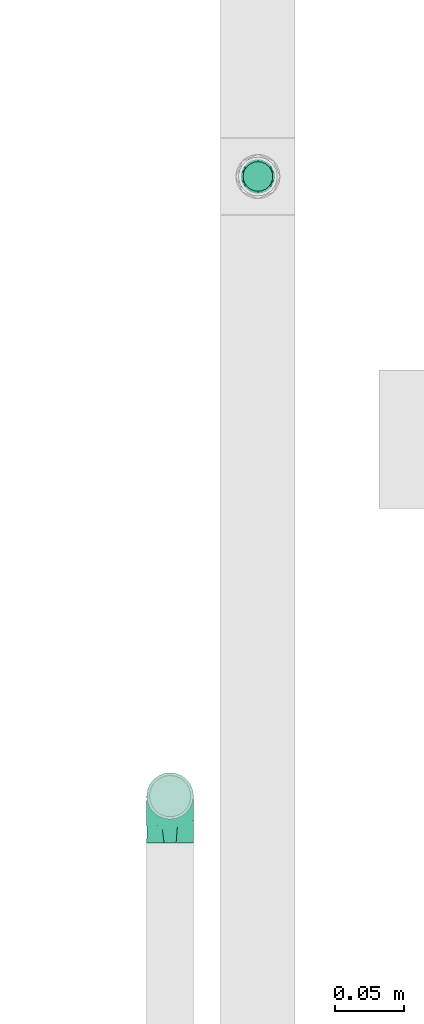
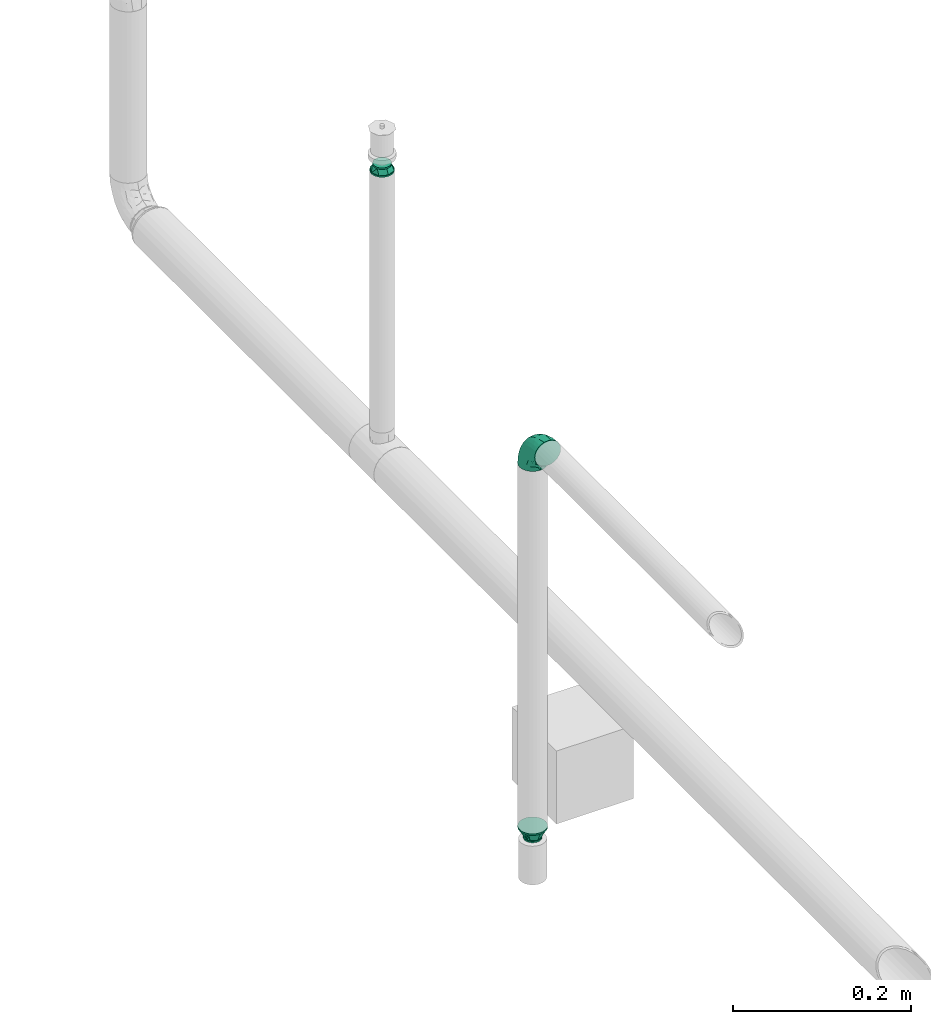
# One storey, part 57 of 95: 3 flow fittings.
"""IFC2X3 building model written with IfcOpenShell, lengths in millimetres."""

import ifcopenshell
import ifcopenshell.guid

model = None  # the IFC model being written
_history = None  # IfcOwnerHistory: only IFC2X3 demands one
_inside = {}  # id of a spatial element -> (the spatial element, [elements in it])
_under = {}  # id of a project, library or spatial element -> (it, [spatial elements below it])
_declared = {}  # id of a project -> (the project, [libraries it declares])
_typed = {}  # id of a type object -> (the type object, [elements of that type])
_made_of = {}  # id of a material, layer set ... -> (it, [elements and type objects made of it])


def new_model(schema):
    """Start an empty IFC model of exactly this schema.

    Asked for "IFC4X3", IfcOpenShell would pick the latest addendum, in which some entities
    have other attributes; the version numbers below select the first issue.
    IFC2X3 requires an IfcOwnerHistory on every rooted entity: one is made here for all.
    """
    global model, _history
    if schema == "IFC4X3":
        model = ifcopenshell.file(schema_version=(4, 3, 0, 0))
    else:
        model = ifcopenshell.file(schema=schema)
    _inside.clear()
    _under.clear()
    _declared.clear()
    _typed.clear()
    _made_of.clear()
    _history = None
    if model.schema == "IFC2X3":
        org = make("IfcOrganization", Name="unknown")
        user = make(
            "IfcPersonAndOrganization",
            ThePerson=make("IfcPerson", FamilyName="unknown"),
            TheOrganization=org,
        )
        app = make(
            "IfcApplication",
            ApplicationDeveloper=org,
            Version="unknown",
            ApplicationFullName="unknown",
            ApplicationIdentifier="unknown",
        )
        _history = make(
            "IfcOwnerHistory",
            OwningUser=user,
            OwningApplication=app,
            ChangeAction="ADDED",
            CreationDate=0,
        )
    return model


def make(cls, **values):
    """One entity of the class cls with the attributes given. An attribute that is None is left unset."""
    return model.create_entity(
        cls, **{name: value for name, value in values.items() if value is not None}
    )


def entity(cls, *values):
    """Any entity or typed value of the class cls, its attributes in the order of the schema. None: left unset."""
    e = model.create_entity(cls)
    for i, value in enumerate(values):
        if value is not None:
            e[i] = value
    return e


def rooted(cls, **values):
    """An entity with a GlobalId (a new one), such as an element, a storey or a relation."""
    return make(cls, GlobalId=ifcopenshell.guid.new(), OwnerHistory=_history, **values)


def si_unit(unit_type, name, prefix=None):
    """IfcSIUnit, for example si_unit("LENGTHUNIT", "METRE", prefix="MILLI")."""
    return make("IfcSIUnit", UnitType=unit_type, Prefix=prefix, Name=name)


def converted_unit(unit_type, name, factor, base, dimensions=None, offset=None):
    """IfcConversionBasedUnit, such as the inch: factor (a typed value) times the base unit."""
    return make(
        "IfcConversionBasedUnit"
        if offset is None
        else "IfcConversionBasedUnitWithOffset",
        ConversionOffset=offset,
        Dimensions=None
        if dimensions is None
        else entity("IfcDimensionalExponents", *dimensions),
        UnitType=unit_type,
        Name=name,
        ConversionFactor=make(
            "IfcMeasureWithUnit", ValueComponent=factor, UnitComponent=base
        ),
    )


def derived_unit(unit_type, elements):
    """IfcDerivedUnit: a product of units, each with its exponent."""
    return make(
        "IfcDerivedUnit",
        Elements=[
            make("IfcDerivedUnitElement", Unit=unit, Exponent=power)
            for unit, power in elements
        ],
        UnitType=unit_type,
    )


def assignment(units):
    """IfcUnitAssignment: the units of a project."""
    return None if units is None else make("IfcUnitAssignment", Units=units)


def point(xyz):
    """IfcCartesianPoint."""
    return None if xyz is None else make("IfcCartesianPoint", Coordinates=xyz)


def direction(xyz):
    """IfcDirection."""
    return None if xyz is None else make("IfcDirection", DirectionRatios=xyz)


def frame(location, z_axis=None, x_axis=None):
    """IfcAxis2Placement3D, a coordinate frame: its origin and axes. An axis left out is left unset."""
    return make(
        "IfcAxis2Placement3D",
        Location=point(location),
        Axis=direction(z_axis),
        RefDirection=direction(x_axis),
    )


def origin_with_axes():
    """The frame at (0, 0, 0) with the z axis (0, 0, 1) and the x axis (1, 0, 0) written out."""
    return frame((0.0, 0.0, 0.0), z_axis=(0.0, 0.0, 1.0), x_axis=(1.0, 0.0, 0.0))


def place(relative_to, where):
    """IfcLocalPlacement: puts the frame where relative to a parent placement (None: the world)."""
    return make(
        "IfcLocalPlacement", PlacementRelTo=relative_to, RelativePlacement=where
    )


def context(
    kind, dimensions, precision=None, world=None, true_north=None, identifier=None
):
    """IfcGeometricRepresentationContext, for example the 3D "Model" context."""
    return make(
        "IfcGeometricRepresentationContext",
        ContextIdentifier=identifier,
        ContextType=kind,
        CoordinateSpaceDimension=dimensions,
        Precision=precision,
        WorldCoordinateSystem=world,
        TrueNorth=true_north,
    )


def subcontext(parent, identifier, kind, view, scale=None):
    """IfcGeometricRepresentationSubContext, for example "Body" below "Model"."""
    return make(
        "IfcGeometricRepresentationSubContext",
        ContextIdentifier=identifier,
        ContextType=kind,
        ParentContext=parent,
        TargetScale=scale,
        TargetView=view,
    )


def project(units=None, contexts=None):
    """IfcProject with its units and contexts."""
    return rooted(
        "IfcProject",
        Name="project",
        RepresentationContexts=contexts,
        UnitsInContext=assignment(units),
    )


def spatial(cls, under=None, at=None, **own):
    """A site, building, storey or space (cls), placed at a placement, below another one or the project."""
    s = rooted(cls, ObjectPlacement=at, **own)
    if under is not None:
        _under.setdefault(under.id(), (under, []))[1].append(s)
    return s


def faces_of(points, faces, orient=None, outer=None):
    """IfcFace entities. A face is a list of loops; a loop is a list of indices into points, from 0.

    orient and outer hold one flag for each loop. By default every Orientation is true, the
    first loop of a face is its IfcFaceOuterBound and the others are IfcFaceBound.
    """
    made = []
    for i, loops in enumerate(faces):
        bounds = []
        for j, loop in enumerate(loops):
            is_outer = j == 0 if outer is None else outer[i][j]
            bounds.append(
                make(
                    "IfcFaceOuterBound" if is_outer else "IfcFaceBound",
                    Bound=make("IfcPolyLoop", Polygon=[points[k] for k in loop]),
                    Orientation=True if orient is None else orient[i][j],
                )
            )
        made.append(make("IfcFace", Bounds=bounds))
    return made


def open_shell(faces, orient=None, outer=None):
    """The faces of one IfcOpenShell. surface_model builds it on its shared points."""
    return ("IfcOpenShell", faces, orient, outer)


def surface_model(cls, points, shells):
    """IfcFaceBasedSurfaceModel or IfcShellBasedSurfaceModel (cls): surfaces that need not close."""
    shared = [point(p) for p in points]
    made = [make(c, CfsFaces=faces_of(shared, fs, o, b)) for c, fs, o, b in shells]
    if cls == "IfcFaceBasedSurfaceModel":
        return make(cls, FbsmFaces=made)
    return make(cls, SbsmBoundary=made)


def shape(context_of_items, identifier, shape_type, items):
    """IfcShapeRepresentation: the items that make up one representation, for example the "Body"."""
    return make(
        "IfcShapeRepresentation",
        ContextOfItems=context_of_items,
        RepresentationIdentifier=identifier,
        RepresentationType=shape_type,
        Items=items,
    )


def source(mapping_origin, context_of_items, identifier, shape_type, items):
    """IfcRepresentationMap: a shape defined once, which mapped items show again and again."""
    return make(
        "IfcRepresentationMap",
        MappingOrigin=mapping_origin,
        MappedRepresentation=shape(context_of_items, identifier, shape_type, items),
    )


def transform(
    local_origin,
    x_axis=None,
    y_axis=None,
    z_axis=None,
    scale=None,
    scale2=None,
    scale3=None,
    uniform=True,
):
    """IfcCartesianTransformationOperator3D, or its non-uniform kind. x_axis, y_axis, z_axis: its Axis1, 2, 3."""
    if uniform:
        return make(
            "IfcCartesianTransformationOperator3D",
            Axis1=direction(x_axis),
            Axis2=direction(y_axis),
            LocalOrigin=point(local_origin),
            Scale=scale,
            Axis3=direction(z_axis),
        )
    return make(
        "IfcCartesianTransformationOperator3DnonUniform",
        Axis1=direction(x_axis),
        Axis2=direction(y_axis),
        LocalOrigin=point(local_origin),
        Scale=scale,
        Axis3=direction(z_axis),
        Scale2=scale2,
        Scale3=scale3,
    )


def mapped(mapping_source, mapping_target):
    """IfcMappedItem: shows the shape of a source again, moved by a transform."""
    return make(
        "IfcMappedItem", MappingSource=mapping_source, MappingTarget=mapping_target
    )


def made_of(thing, what):
    """Note that an element or type object is made of a material, layer set ...; save() writes the relation."""
    if what is not None:
        _made_of.setdefault(what.id(), (what, []))[1].append(thing)
    return thing


def type_object(cls, material=None, **own):
    """A type object (cls), such as IfcWallType, which elements share."""
    return made_of(rooted(cls, **own), material)


def element(
    cls,
    number,
    at=None,
    inside=None,
    cuts=None,
    type_object=None,
    material=None,
    context=None,
    identifier="Body",
    shape_type=None,
    held_by="IfcProductDefinitionShape",
    body=None,
    shapes=None,
    **own,
):
    """One element of the class cls, such as IfcWall. Its Tag is "e" and its number.

    at: its placement. inside: the storey or other place that contains it. cuts: it is an
    opening in that element (IfcRelVoidsElement). A single representation is given by context,
    identifier, shape_type and body (its items); several are given by shapes. held_by: the class
    of the entity that holds the representations. save() writes the other relations.
    """
    e = rooted(cls, Tag="e%d" % number, ObjectPlacement=at, **own)
    if body is not None:
        shapes = [shape(context, identifier, shape_type, body)]
    if shapes is not None:
        e.Representation = make(held_by, Representations=shapes)
    if inside is not None:
        _inside.setdefault(inside.id(), (inside, []))[1].append(e)
    if cuts is not None:
        rooted(
            "IfcRelVoidsElement", RelatingBuildingElement=cuts, RelatedOpeningElement=e
        )
    if type_object is not None:
        _typed.setdefault(type_object.id(), (type_object, []))[1].append(e)
    return made_of(e, material)


def aggregate(whole, parts):
    """IfcRelAggregates: a whole, such as a stair, and the parts it consists of."""
    return rooted("IfcRelAggregates", RelatingObject=whole, RelatedObjects=parts)


def save(model, path):
    """Write the relations noted so far, then the file.

    IfcRelAggregates (storeys below a building ...), IfcRelContainedInSpatialStructure (elements
    in a storey), IfcRelDefinesByType, IfcRelAssociatesMaterial and IfcRelDeclares: one each for
    every whole, place, type object, material and project.
    """
    for whole, parts in _under.values():
        aggregate(whole, parts)
    for where, things in _inside.values():
        rooted(
            "IfcRelContainedInSpatialStructure",
            RelatedElements=things,
            RelatingStructure=where,
        )
    for kind, things in _typed.values():
        rooted("IfcRelDefinesByType", RelatedObjects=things, RelatingType=kind)
    for what, things in _made_of.values():
        rooted("IfcRelAssociatesMaterial", RelatedObjects=things, RelatingMaterial=what)
    for by, libraries in _declared.values():
        rooted("IfcRelDeclares", RelatingContext=by, RelatedDefinitions=libraries)
    model.write(path)


model = new_model("IFC2X3")

# Units and contexts
model_context = context("Model", 3, precision=0.01, world=frame((0.0, 4.29681676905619e-09, 0.0)), true_north=direction((4.01073788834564e-13, 1.0)))
plan_context = context("Plan", 3, precision=0.01, world=frame((0.0, 4.29681676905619e-09, 0.0)), true_north=direction((4.01073788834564e-13, 1.0)))
body_context = subcontext(model_context, "Body", "Model", "MODEL_VIEW")
ifc_project = project(units=[converted_unit("PLANEANGLEUNIT", "DEGREE", entity("IfcPositiveLengthMeasure", 0.0174532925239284), si_unit("PLANEANGLEUNIT", "RADIAN"), dimensions=[0, 0, 0, 0, 0, 0, 0]), si_unit("AREAUNIT", "SQUARE_METRE"), si_unit("LENGTHUNIT", "METRE", prefix="MILLI"), si_unit("MASSUNIT", "GRAM", prefix="KILO"), si_unit("POWERUNIT", "WATT"), si_unit("PRESSUREUNIT", "PASCAL"), si_unit("FORCEUNIT", "NEWTON", prefix="KILO"), si_unit("ELECTRICVOLTAGEUNIT", "VOLT"), si_unit("ELECTRICCURRENTUNIT", "AMPERE"), si_unit("THERMODYNAMICTEMPERATUREUNIT", "DEGREE_CELSIUS"), si_unit("TIMEUNIT", "SECOND"), si_unit("VOLUMEUNIT", "CUBIC_METRE"), derived_unit("LINEARVELOCITYUNIT", [(si_unit("LENGTHUNIT", "METRE"), 1), (si_unit("TIMEUNIT", "SECOND"), -1)]), derived_unit("VOLUMETRICFLOWRATEUNIT", [(si_unit("VOLUMEUNIT", "CUBIC_METRE"), 1), (si_unit("TIMEUNIT", "SECOND"), -1)]), derived_unit("THERMALTRANSMITTANCEUNIT", [(si_unit("POWERUNIT", "WATT"), 1), (si_unit("THERMODYNAMICTEMPERATUREUNIT", "KELVIN"), -1), (si_unit("AREAUNIT", "SQUARE_METRE"), -1)]), derived_unit("SOUNDPRESSUREUNIT", [(si_unit("PRESSUREUNIT", "PASCAL"), 1)])], contexts=[model_context, plan_context])

# Site, building, storey
site_placement = place(None, frame((0.0, -4.29681676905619e-09, 0.0), z_axis=(0.0, 0.0, 1.0), x_axis=(1.0, 0.0, 0.0)))
site = spatial("IfcSite", under=ifc_project, at=site_placement, CompositionType="ELEMENT")
building_placement = place(site_placement, frame((0.0, 4.29681676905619e-09, 0.0), z_axis=(0.0, 0.0, 1.0), x_axis=(1.0, 0.0, 0.0)))
building = spatial("IfcBuilding", under=site, at=building_placement, Name="mc-building", CompositionType="ELEMENT")
storey_placement = place(building_placement, frame((0.0, 0.0, 210900.0), z_axis=(0.0, 0.0, 1.0), x_axis=(1.0, 0.0, 0.0)))
storey = spatial("IfcBuildingStorey", under=building, at=storey_placement, Name="Nivå F", CompositionType="ELEMENT", Elevation=210900.0)

# Flow fittings
pipe_fitting_type_1 = type_object("IfcPipeFittingType", Name="magi_pipe_fe_reducer_centric_short_NOR", PredefinedType="TRANSITION")
shared_shape_1 = source(origin_with_axes(), body_context, "Body", "SurfaceModel", [
    surface_model("IfcShellBasedSurfaceModel", [(-2.0, -7.56604, -7.56604), (-2.0, -10.33541, -2.76936), (-2.0, -5.35, -9.26647), (-2.0, 5.35, -9.26647), (-2.0, 10.33541, -2.76936), (-2.0, 7.56604, -7.56604), (12.4, 11.9501, 11.9501), (12.4, 0.0, 16.9), (12.4, 11.9501, -11.9501), (12.4, 16.9, 0.0), (0.0, -10.7, 0.0), (0.0, -5.35, 9.26647), (0.0, -5.35, -9.26647), (0.0, 10.7, 0.0), (12.4, 15.66253, -2.98753), (12.4, 8.96258, -13.18758), (0.0, 6.6875, -6.94985), (12.4, -15.66253, -2.98753), (12.4, -16.9, 0.0), (12.4, 5.97505, -14.42505), (0.0, 5.35, -9.26647), (12.4, 14.42505, -5.97505), (0.0, 8.025, -4.63324), (0.0, 9.3625, -2.31662), (0.0, -9.3625, -2.31662), (0.0, -8.025, -4.63324), (12.4, -14.42505, -5.97505), (12.4, 13.18758, -8.96258), (12.4, -13.18758, -8.96258), (12.4, -11.9501, -11.9501), (0.0, -6.6875, -6.94985), (12.4, -8.96258, -13.18758), (12.4, -5.97505, -14.42505), (12.4, -15.66253, 2.98753), (12.4, -8.96258, 13.18758), (0.0, -6.6875, 6.94985), (12.4, -11.9501, 11.9501), (12.4, 15.66253, 2.98753), (12.4, -5.97505, 14.42505), (12.4, -14.42505, 5.97505), (0.0, -8.025, 4.63324), (0.0, -9.3625, 2.31662), (0.0, 9.3625, 2.31662), (0.0, 8.025, 4.63324), (12.4, 14.42505, 5.97505), (12.4, -13.18758, 8.96258), (12.4, 13.18758, 8.96258), (0.0, 6.6875, 6.94985), (12.4, 8.96258, 13.18758), (0.0, 5.35, 9.26647), (12.4, 5.97505, 14.42505), (14.4, 4.37404, -16.32415), (14.4, 8.45, -14.63583), (14.4, 11.9501, -11.9501), (14.4, -8.45, -14.63583), (14.4, 16.32415, -4.37404), (14.4, 16.32415, 4.37404), (14.4, 14.63583, -8.45), (14.4, 0.0, -16.9), (14.4, -4.37404, -16.32415), (14.4, -11.9501, -11.9501), (14.4, -16.32415, -4.37404), (14.4, -14.63583, -8.45), (14.4, -16.32415, 4.37404), (14.4, 16.9, 0.0), (14.4, 14.63583, 8.45), (14.4, 11.9501, 11.9501), (14.4, 4.37404, 16.32415), (14.4, 8.45, 14.63583), (14.4, 0.0, 16.9), (14.4, -14.63583, 8.45), (14.4, -16.9, 0.0), (14.4, -8.45, 14.63583), (14.4, -11.9501, 11.9501), (14.4, -4.37404, 16.32415), (12.4, 4.37404, 16.32415), (12.4, -14.63583, 8.45), (12.4, 16.32415, 4.37404), (12.4, 8.45, 14.63583), (12.4, 14.63583, 8.45), (12.4, -8.45, 14.63583), (12.4, -4.37404, 16.32415), (12.4, -16.32415, 4.37404), (12.4, -16.32415, -4.37404), (12.4, -8.45, -14.63583), (12.4, 16.32415, -4.37404), (12.4, 14.63583, -8.45), (12.4, 8.45, -14.63583), (12.4, 4.37404, -16.32415), (12.4, 0.0, -16.9), (12.4, -14.63583, -8.45), (12.4, -4.37404, -16.32415), (-2.0, 2.76936, 10.33541), (-2.0, 0.0, 10.7), (-2.0, 5.35, 9.26647), (-2.0, 7.56604, 7.56604), (-2.0, 9.26647, 5.35), (-2.0, 10.33541, 2.76936), (-2.0, -10.33541, 2.76936), (-2.0, -2.76936, 10.33541), (-2.0, -7.56604, 7.56604), (-2.0, -5.35, 9.26647), (-2.0, -9.26647, 5.35), (-2.0, -10.7, 0.0), (-2.0, 9.26647, -5.35), (-2.0, 2.76936, -10.33541), (-2.0, -9.26647, -5.35), (-2.0, 0.0, -10.7), (-2.0, -2.76936, -10.33541), (-2.0, 10.7, 0.0), (0.0, 0.0, -10.7), (0.0, 2.76936, -10.33541), (0.0, 10.33541, -2.76936), (0.0, 7.56604, -7.56604), (0.0, -10.33541, -2.76936), (0.0, 9.26647, -5.35), (0.0, 0.0, 10.7), (0.0, -2.76936, -10.33541), (0.0, -7.56604, -7.56604), (0.0, -9.26647, -5.35), (0.0, 10.33541, 2.76936), (0.0, 9.26647, 5.35), (0.0, 7.56604, 7.56604), (0.0, 2.76936, 10.33541), (0.0, -7.56604, 7.56604), (0.0, -10.33541, 2.76936), (0.0, -9.26647, 5.35), (0.0, -2.76936, 10.33541), (0.0, 2.675, -9.26647), (0.0, -2.675, -9.26647), (12.4, 2.98753, -15.66253), (0.0, 0.0, -9.26647), (12.4, -2.98753, -15.66253), (0.0, -2.675, 9.26647), (0.0, 2.675, 9.26647), (12.4, -2.98753, 15.66253), (0.0, 0.0, 9.26647), (12.4, 2.98753, 15.66253)], [open_shell([[[0, 1, 2]], [[3, 4, 5]], [[6, 7, 8]], [[8, 9, 6]], [[10, 11, 12]], [[13, 9, 14]], [[15, 16, 8]], [[17, 18, 10]], [[15, 19, 20]], [[21, 22, 23]], [[24, 25, 26]], [[22, 21, 27]], [[28, 26, 25]], [[29, 30, 31]], [[12, 32, 31]], [[10, 18, 33]], [[34, 35, 36]], [[37, 9, 13]], [[34, 38, 11]], [[39, 40, 41]], [[42, 43, 44]], [[40, 39, 45]], [[46, 44, 43]], [[6, 47, 48]], [[49, 50, 48]], [[51, 52, 53]], [[54, 51, 53]], [[53, 55, 56]], [[55, 53, 57]], [[53, 56, 54]], [[58, 54, 59]], [[58, 51, 54]], [[60, 61, 62]], [[61, 60, 54]], [[54, 63, 61]], [[56, 55, 64]], [[56, 65, 66]], [[56, 66, 67]], [[67, 63, 54]], [[67, 66, 68]], [[63, 67, 69]], [[69, 70, 63]], [[71, 61, 63]], [[70, 72, 73]], [[70, 69, 72]], [[72, 69, 74]], [[54, 56, 67]], [[75, 76, 7]], [[77, 75, 78]], [[6, 79, 77]], [[6, 77, 78]], [[76, 75, 77]], [[80, 76, 36]], [[80, 81, 7]], [[7, 76, 80]], [[82, 76, 77]], [[82, 83, 18]], [[82, 77, 84]], [[77, 85, 8]], [[8, 85, 86]], [[8, 87, 88]], [[84, 77, 8]], [[88, 89, 8]], [[83, 29, 90]], [[29, 83, 84]], [[84, 89, 91]], [[83, 82, 84]], [[8, 89, 84]], [[85, 77, 9]], [[83, 61, 18]], [[90, 62, 83]], [[54, 29, 84]], [[90, 29, 60]], [[59, 84, 91]], [[83, 62, 61]], [[61, 71, 18]], [[59, 54, 84]], [[60, 29, 54]], [[60, 62, 90]], [[58, 59, 91]], [[91, 89, 58]], [[88, 51, 89]], [[87, 52, 88]], [[57, 8, 86]], [[87, 8, 53]], [[55, 86, 85]], [[87, 53, 52]], [[52, 51, 88]], [[64, 55, 85]], [[57, 86, 55]], [[57, 53, 8]], [[9, 64, 85]], [[89, 51, 58]], [[77, 56, 9]], [[79, 65, 77]], [[68, 6, 78]], [[79, 6, 66]], [[67, 78, 75]], [[77, 65, 56]], [[56, 64, 9]], [[67, 68, 78]], [[66, 6, 68]], [[66, 65, 79]], [[69, 67, 75]], [[75, 7, 69]], [[81, 74, 7]], [[80, 72, 81]], [[70, 36, 76]], [[80, 36, 73]], [[63, 76, 82]], [[80, 73, 72]], [[72, 74, 81]], [[71, 63, 82]], [[70, 76, 63]], [[70, 73, 36]], [[18, 71, 82]], [[7, 74, 69]], [[92, 1, 93]], [[94, 1, 92]], [[95, 96, 97]], [[95, 97, 94]], [[98, 93, 1]], [[99, 100, 101]], [[99, 93, 100]], [[100, 98, 102]], [[93, 98, 100]], [[98, 1, 103]], [[94, 97, 1]], [[1, 97, 4]], [[5, 4, 104]], [[4, 3, 1]], [[105, 1, 3]], [[1, 0, 106]], [[2, 107, 108]], [[2, 1, 105]], [[105, 107, 2]], [[4, 97, 109]], [[20, 110, 111]], [[112, 20, 113]], [[114, 20, 112]], [[112, 113, 115]], [[116, 114, 112]], [[110, 12, 117]], [[110, 20, 12]], [[118, 114, 119]], [[114, 118, 12]], [[20, 114, 12]], [[112, 13, 120]], [[120, 121, 122]], [[120, 122, 123]], [[116, 112, 123]], [[123, 122, 49]], [[116, 124, 114]], [[125, 124, 126]], [[10, 114, 125]], [[124, 127, 11]], [[125, 114, 124]], [[127, 124, 116]], [[123, 112, 120]], [[1, 114, 103]], [[106, 119, 1]], [[12, 0, 2]], [[106, 0, 118]], [[117, 2, 108]], [[1, 119, 114]], [[114, 10, 103]], [[117, 12, 2]], [[118, 0, 12]], [[118, 119, 106]], [[110, 117, 108]], [[108, 107, 110]], [[105, 111, 107]], [[3, 20, 105]], [[115, 5, 104]], [[3, 5, 113]], [[112, 104, 4]], [[3, 113, 20]], [[20, 111, 105]], [[13, 112, 4]], [[115, 104, 112]], [[115, 113, 5]], [[109, 13, 4]], [[107, 111, 110]], [[97, 120, 109]], [[96, 121, 97]], [[49, 95, 94]], [[96, 95, 122]], [[123, 94, 92]], [[97, 121, 120]], [[120, 13, 109]], [[123, 49, 94]], [[122, 95, 49]], [[122, 121, 96]], [[116, 123, 92]], [[92, 93, 116]], [[99, 127, 93]], [[101, 11, 99]], [[126, 100, 102]], [[101, 100, 124]], [[125, 102, 98]], [[101, 124, 11]], [[11, 127, 99]], [[10, 125, 98]], [[126, 102, 125]], [[126, 124, 100]], [[103, 10, 98]], [[93, 127, 116]], [[18, 7, 36]], [[18, 29, 8]], [[89, 8, 29]], [[18, 8, 7]], [[13, 11, 49]], [[13, 20, 12]], [[13, 12, 11]], [[24, 26, 17]], [[10, 24, 17]], [[16, 15, 20]], [[30, 12, 31]], [[23, 14, 21]], [[19, 128, 20]], [[27, 8, 16]], [[32, 12, 129]], [[30, 28, 25]], [[130, 131, 128]], [[129, 132, 32]], [[16, 22, 27]], [[13, 14, 23]], [[128, 19, 130]], [[130, 89, 131]], [[131, 132, 129]], [[89, 132, 131]], [[28, 30, 29]], [[42, 44, 37]], [[13, 42, 37]], [[35, 34, 11]], [[47, 49, 48]], [[41, 33, 39]], [[38, 133, 11]], [[45, 36, 35]], [[50, 49, 134]], [[47, 46, 43]], [[135, 136, 133]], [[134, 137, 50]], [[35, 40, 45]], [[10, 33, 41]], [[133, 38, 135]], [[135, 7, 136]], [[136, 137, 134]], [[7, 137, 136]], [[46, 47, 6]]])]),
])
flow_fitting_1_placement = place(storey_placement, frame((535898.68266, 447207.85, 3762.948), z_axis=(-1.0, 0.0, 0.0), x_axis=(0.0, 0.0, 1.0)))
element("IfcFlowFitting", 1, at=flow_fitting_1_placement, inside=storey, type_object=pipe_fitting_type_1, Name="magi_pipe_fe_reducer_centric_short_NOR", context=body_context, shape_type="MappedRepresentation", body=[
    mapped(shared_shape_1, transform((0.0, 0.0, 0.0), scale=1.0)),
])
pipe_fitting_type_2 = type_object("IfcPipeFittingType", Name="magi_pipe_fe_elbow_short_001", PredefinedType="BEND")
shared_shape_2 = source(origin_with_axes(), body_context, "Body", "SurfaceModel", [
    surface_model("IfcShellBasedSurfaceModel", [(-33.8, 8.45, -14.63583), (-33.8, 4.37404, -16.32415), (-33.8, 11.9501, -11.9501), (-33.8, -11.9501, -11.9501), (-33.8, -14.63583, -8.45), (-33.8, -8.45, -14.63583), (-33.8, 0.0, -16.9), (-33.8, -4.37404, -16.32415), (-33.8, -4.37404, 16.32415), (-33.8, 0.0, 16.9), (-33.8, -8.45, 14.63583), (-33.8, 16.32415, -4.37404), (-33.8, 14.63583, -8.45), (-33.8, -16.32415, -4.37404), (-33.8, -16.9, 0.0), (-33.8, -16.32415, 4.37404), (-33.8, 11.9501, 11.9501), (-33.8, 14.63583, 8.45), (-33.8, 16.32415, 4.37404), (-33.8, 4.37404, 16.32415), (-33.8, 8.45, 14.63583), (-33.8, -14.63583, 8.45), (-33.8, -11.9501, 11.9501), (-33.8, 16.9, 0.0), (-11.9501, 33.8, -11.9501), (0.0, 33.8, -16.9), (-4.37404, 33.8, -16.32415), (-8.45, 33.8, -14.63583), (-14.63583, 33.8, -8.45), (-16.32415, 33.8, -4.37404), (14.63583, 33.8, -8.45), (8.45, 33.8, 14.63583), (16.32415, 33.8, -4.37404), (8.45, 33.8, -14.63583), (11.9501, 33.8, -11.9501), (4.37404, 33.8, -16.32415), (16.32415, 33.8, 4.37404), (16.9, 33.8, 0.0), (-11.9501, 33.8, 11.9501), (-16.32415, 33.8, 4.37404), (-14.63583, 33.8, 8.45), (-8.45, 33.8, 14.63583), (-4.37404, 33.8, 16.32415), (11.9501, 33.8, 11.9501), (14.63583, 33.8, 8.45), (0.0, 33.8, 16.9), (4.37404, 33.8, 16.32415), (-16.9, 33.8, 0.0), (-24.79389, -13.12945, 9.48721), (-22.19287, -9.75018, 12.59315), (-24.09897, -14.97035, 0.0), (-14.93934, -10.76256, 8.5297), (-22.46095, -14.75051, 5.27077), (14.75051, 22.46094, 5.27077), (11.9251, 13.23888, 4.33236), (13.04069, 14.39795, 0.0), (7.71387, 13.68847, 11.55891), (9.75018, 22.19287, 12.59315), (4.10169, 13.0571, 14.04018), (-24.84007, -6.39063, 15.2048), (-25.81779, -2.23879, 16.61097), (-23.66549, 2.59054, 16.87119), (-26.50418, 14.06512, 11.08152), (-24.21253, 17.66365, 7.72657), (-29.58514, 15.86957, 7.00283), (-6.17382, -7.5455, 0.0), (-13.23888, -11.9251, 4.33236), (-14.39795, -13.04069, 0.0), (-17.81434, 18.87373, 11.97104), (-6.30846, 29.15138, 15.82987), (-2.31622, 25.28002, 16.85849), (-29.23923, 10.23435, 13.77053), (-1.45439, -2.85688, 7.61475), (-0.28326, 0.34872, 10.09509), (-5.74484, -4.04709, 10.4122), (-4.41137, 11.31918, 16.59407), (-8.39727, 3.10034, 15.7812), (-1.72649, 9.1306, 15.53089), (-17.39909, 24.75344, 7.64977), (-26.19233, 20.0512, 0.0), (-28.14518, 17.29657, 4.25857), (-26.05147, 6.6281, 15.96447), (-5.87354, 16.61944, 16.86968), (-12.51807, 12.51807, 16.48937), (-10.06312, 7.38516, 16.81295), (-3.01882, 3.01882, 13.81718), (-13.0571, -4.10169, 14.04018), (-16.82553, -0.15166, 16.38038), (10.76256, 14.93934, 8.5297), (13.12945, 24.79389, 9.48721), (6.39063, 24.84007, 15.2048), (2.23879, 25.81779, 16.61097), (-13.68847, -7.71387, 11.55891), (14.97035, 24.09897, 0.0), (-7.30894, 22.89991, 16.09489), (-10.67958, 26.17414, 14.008), (-12.78295, 18.26924, 15.06066), (-13.88562, 22.45231, 12.93244), (-18.04944, 15.16501, 14.04434), (-23.11658, 20.08178, 4.02986), (-21.84989, 21.84989, 0.0), (-18.55817, 25.48277, 3.93065), (-13.95142, 26.94732, 11.03289), (-18.57098, 7.23906, 16.59756), (-16.58335, 4.14122, 16.89279), (-17.96666, 11.46709, 15.63151), (-9.84453, 17.54304, 16.18938), (0.15166, 16.82553, 16.38038), (-23.27207, 11.47201, 14.23154), (3.84842, 5.86994, 10.70473), (-8.0212, -7.54413, 7.93275), (1.00345, -2.19508, 4.57414), (5.13203, 3.01004, 5.90201), (5.24161, 1.7543, 2.53265), (8.70457, 7.04947, 3.99182), (-20.0512, 26.19233, 0.0), (8.4852, 8.76699, 7.09296), (-4.55488, -6.72064, 4.90681), (2.05031, -2.05031, 0.0), (7.5455, 6.17382, 0.0), (-26.75399, 2.1369, -16.845), (-14.61995, 24.73803, -11.27736), (-28.45274, -13.45335, -9.81895), (-26.00469, 6.63555, -15.96645), (-23.06726, 20.04573, -4.26202), (-13.80647, -4.26506, -14.17873), (-14.67501, -0.21081, -16.07388), (-6.7902, -0.2828, -13.8478), (-24.53586, 11.08096, -14.13417), (-26.72048, 14.00837, -11.05776), (10.0967, 24.44989, -12.75976), (5.83237, 21.40218, -15.03047), (6.66249, 28.54238, -15.38093), (-20.38182, 15.48705, -12.74596), (12.53268, 21.23441, -9.15363), (12.54494, 15.67504, -5.54878), (9.7522, 12.89279, -8.66343), (-15.65186, 19.64213, -13.01327), (-12.03528, 20.66498, -14.67665), (-15.61907, 15.61906, -14.83879), (-25.56551, -15.26206, 0.0), (-24.65452, -15.12934, -5.50955), (13.45335, 28.45274, -9.81895), (15.12934, 24.65452, -5.50955), (-7.35442, -8.31014, -5.65563), (-15.67504, -12.54494, -5.54878), (-24.44989, -10.0967, -12.75976), (0.16522, 0.41303, -9.71728), (-5.70658, -5.33066, -8.89288), (-5.13869, -2.37198, -11.53565), (-21.23441, -12.53268, -9.15363), (0.71146, 7.93863, -14.09382), (0.21081, 14.67501, -16.07388), (3.49291, 14.42772, -14.76381), (-24.89911, -2.13088, -16.591), (-28.54238, -6.66249, -15.38093), (-18.44386, -7.71663, -13.26957), (2.13088, 24.89911, -16.591), (-28.64342, 17.44413, -2.89318), (1.70017, -1.28722, -5.09504), (-16.57067, 26.81947, -7.36596), (-17.69055, 27.4263, -3.76405), (-12.89279, -9.7522, -8.66343), (-5.96611, 5.96611, -15.95814), (-20.53709, 20.09345, -8.28985), (-2.1369, 26.75399, -16.845), (-6.89872, 24.58781, -16.02578), (-10.60739, 26.53157, -13.98044), (-21.40218, -5.83237, -15.03047), (2.93192, 5.89627, -11.55917), (6.89393, 12.61842, -11.82233), (5.58056, 5.95325, -8.79455), (-3.99512, 18.61798, -16.89635), (8.31014, 7.35442, -5.65563), (-9.1383, 9.86148, -16.89041), (-9.99983, 16.02119, -16.39699), (-16.68576, 9.78031, -16.34199), (-27.01915, 16.61158, -7.12979), (15.26206, 25.56551, 0.0), (-18.61798, 3.99512, -16.89635), (-19.37495, 27.82495, 0.0), (-12.61842, -6.89393, -11.82233), (-18.84705, 19.14018, -10.96545)], [open_shell([[[0, 1, 2]], [[3, 4, 5]], [[6, 7, 5]], [[8, 9, 10]], [[1, 6, 2]], [[11, 12, 2]], [[4, 2, 6]], [[2, 13, 10]], [[5, 4, 6]], [[2, 4, 13]], [[14, 15, 13]], [[11, 2, 16]], [[11, 17, 18]], [[11, 16, 17]], [[19, 20, 16]], [[16, 2, 10]], [[19, 16, 10]], [[21, 22, 15]], [[22, 13, 15]], [[22, 10, 13]], [[10, 9, 19]], [[11, 18, 23]], [[24, 25, 26]], [[24, 26, 27]], [[24, 28, 29]], [[25, 24, 30]], [[31, 32, 24]], [[33, 30, 34]], [[33, 35, 25]], [[25, 30, 33]], [[32, 30, 24]], [[32, 36, 37]], [[38, 24, 29]], [[39, 40, 29]], [[40, 38, 29]], [[38, 41, 42]], [[38, 31, 24]], [[31, 38, 42]], [[36, 43, 44]], [[36, 32, 43]], [[31, 45, 46]], [[32, 31, 43]], [[42, 45, 31]], [[39, 29, 47]], [[22, 48, 49]], [[15, 14, 50]], [[51, 48, 52]], [[53, 54, 55]], [[48, 22, 21]], [[15, 52, 21]], [[56, 57, 58]], [[49, 10, 22]], [[49, 59, 10]], [[9, 60, 61]], [[62, 63, 64]], [[65, 66, 67]], [[57, 43, 31]], [[62, 68, 63]], [[42, 69, 70]], [[20, 71, 16]], [[8, 60, 9]], [[72, 73, 74]], [[75, 76, 77]], [[16, 62, 17]], [[40, 39, 78]], [[79, 23, 80]], [[64, 18, 17]], [[9, 61, 19]], [[19, 81, 20]], [[82, 83, 84]], [[74, 85, 86]], [[59, 86, 87]], [[88, 89, 57]], [[90, 31, 46]], [[44, 53, 36]], [[46, 45, 91]], [[54, 53, 88]], [[44, 89, 53]], [[92, 86, 49]], [[89, 44, 43]], [[10, 59, 8]], [[53, 55, 93]], [[93, 36, 53]], [[66, 52, 67]], [[94, 82, 70]], [[95, 96, 94]], [[97, 98, 96]], [[79, 99, 100]], [[41, 38, 95]], [[101, 100, 99]], [[68, 78, 63]], [[42, 41, 69]], [[23, 18, 80]], [[95, 94, 69]], [[78, 101, 99]], [[38, 102, 95]], [[70, 45, 42]], [[97, 95, 102]], [[15, 50, 52]], [[90, 57, 31]], [[57, 90, 58]], [[81, 19, 61]], [[103, 104, 84]], [[105, 81, 103]], [[38, 40, 102]], [[106, 96, 83]], [[94, 106, 82]], [[91, 70, 107]], [[71, 62, 16]], [[62, 108, 98]], [[86, 59, 49]], [[67, 52, 50]], [[60, 59, 87]], [[92, 49, 51]], [[86, 85, 76]], [[91, 90, 46]], [[37, 36, 93]], [[107, 77, 58]], [[107, 58, 90]], [[58, 85, 109]], [[110, 74, 92]], [[72, 74, 110]], [[66, 51, 52]], [[72, 111, 112]], [[113, 114, 112]], [[56, 88, 57]], [[52, 48, 21]], [[49, 48, 51]], [[57, 89, 43]], [[53, 89, 88]], [[103, 81, 61]], [[71, 81, 108]], [[18, 64, 80]], [[63, 78, 99]], [[47, 115, 101]], [[101, 115, 100]], [[40, 78, 102]], [[68, 102, 78]], [[97, 96, 95]], [[105, 98, 108]], [[103, 84, 83]], [[107, 70, 82]], [[76, 84, 87]], [[82, 84, 75]], [[70, 91, 45]], [[90, 91, 107]], [[59, 60, 8]], [[61, 60, 87]], [[73, 85, 74]], [[109, 112, 116]], [[103, 61, 104]], [[105, 103, 83]], [[96, 105, 83]], [[81, 105, 108]], [[96, 98, 105]], [[62, 98, 68]], [[61, 87, 104]], [[87, 84, 104]], [[86, 76, 87]], [[77, 76, 85]], [[58, 77, 85]], [[75, 77, 107]], [[82, 75, 107]], [[76, 75, 84]], [[81, 71, 20]], [[62, 71, 108]], [[95, 69, 41]], [[70, 69, 94]], [[62, 64, 17]], [[80, 63, 99]], [[63, 80, 64]], [[80, 99, 79]], [[66, 65, 117]], [[110, 66, 117]], [[112, 114, 116]], [[118, 117, 65]], [[110, 92, 51]], [[112, 111, 113]], [[119, 55, 54]], [[74, 86, 92]], [[58, 109, 56]], [[116, 56, 109]], [[66, 110, 51]], [[72, 110, 117]], [[111, 72, 117]], [[73, 112, 109]], [[117, 118, 111]], [[113, 111, 118]], [[118, 119, 113]], [[114, 119, 54]], [[119, 114, 113]], [[116, 54, 88]], [[54, 116, 114]], [[116, 88, 56]], [[112, 73, 72]], [[85, 73, 109]], [[78, 39, 101]], [[47, 101, 39]], [[102, 68, 97]], [[97, 68, 98]], [[82, 106, 83]], [[94, 96, 106]], [[1, 120, 6]], [[28, 24, 121]], [[3, 122, 4]], [[0, 123, 1]], [[100, 124, 79]], [[125, 126, 127]], [[128, 2, 129]], [[130, 131, 132]], [[128, 129, 133]], [[134, 135, 136]], [[137, 138, 139]], [[128, 0, 2]], [[67, 140, 141]], [[134, 142, 143]], [[141, 13, 4]], [[144, 65, 145]], [[146, 3, 5]], [[147, 148, 149]], [[145, 141, 150]], [[151, 152, 153]], [[154, 7, 6]], [[5, 155, 146]], [[150, 146, 156]], [[155, 5, 7]], [[143, 135, 134]], [[35, 157, 25]], [[23, 79, 158]], [[148, 159, 144]], [[160, 161, 29]], [[145, 162, 144]], [[163, 152, 151]], [[29, 28, 160]], [[121, 164, 160]], [[33, 34, 130]], [[25, 165, 26]], [[26, 165, 166]], [[142, 34, 30]], [[24, 27, 167]], [[124, 161, 164]], [[157, 35, 132]], [[155, 154, 168]], [[123, 0, 128]], [[169, 170, 171]], [[172, 157, 152]], [[26, 166, 27]], [[132, 35, 33]], [[142, 130, 34]], [[168, 154, 126]], [[136, 135, 173]], [[133, 137, 139]], [[2, 12, 129]], [[170, 131, 130]], [[30, 32, 143]], [[172, 174, 175]], [[176, 123, 128]], [[158, 177, 11]], [[135, 55, 119]], [[167, 27, 166]], [[175, 166, 172]], [[137, 167, 138]], [[122, 141, 4]], [[140, 14, 13]], [[32, 37, 178]], [[170, 130, 134]], [[152, 157, 131]], [[165, 157, 172]], [[153, 170, 151]], [[152, 163, 174]], [[168, 125, 156]], [[122, 146, 150]], [[120, 154, 6]], [[179, 174, 126]], [[179, 126, 154]], [[126, 163, 127]], [[162, 145, 150]], [[140, 13, 141]], [[32, 178, 143]], [[55, 143, 178]], [[177, 129, 12]], [[128, 133, 139]], [[176, 128, 139]], [[120, 123, 179]], [[121, 160, 28]], [[161, 100, 180]], [[166, 175, 138]], [[121, 24, 167]], [[161, 47, 29]], [[79, 124, 158]], [[124, 164, 177]], [[161, 124, 100]], [[136, 171, 170]], [[127, 163, 151]], [[147, 171, 159]], [[148, 144, 162]], [[127, 151, 169]], [[127, 181, 125]], [[129, 177, 164]], [[12, 11, 177]], [[159, 65, 144]], [[67, 141, 145]], [[143, 55, 135]], [[135, 119, 173]], [[123, 120, 1]], [[154, 120, 179]], [[157, 165, 25]], [[166, 165, 172]], [[172, 152, 174]], [[176, 139, 175]], [[126, 174, 163]], [[176, 174, 179]], [[174, 176, 175]], [[123, 176, 179]], [[150, 181, 162]], [[127, 149, 181]], [[181, 148, 162]], [[159, 148, 147]], [[171, 136, 173]], [[170, 134, 136]], [[159, 171, 173]], [[171, 147, 169]], [[169, 147, 149]], [[151, 170, 169]], [[164, 182, 129]], [[182, 121, 137]], [[181, 149, 148]], [[169, 149, 127]], [[182, 137, 133]], [[167, 137, 121]], [[166, 138, 167]], [[175, 139, 138]], [[129, 182, 133]], [[121, 182, 164]], [[161, 160, 164]], [[47, 161, 180]], [[177, 158, 124]], [[23, 158, 11]], [[130, 132, 33]], [[157, 132, 131]], [[143, 142, 30]], [[130, 142, 134]], [[154, 155, 7]], [[146, 155, 168]], [[146, 122, 3]], [[141, 122, 150]], [[152, 131, 153]], [[159, 119, 118]], [[67, 145, 65]], [[170, 153, 131]], [[119, 159, 173]], [[159, 118, 65]], [[156, 125, 181]], [[126, 125, 168]], [[150, 156, 181]], [[168, 156, 146]]])]),
])
flow_fitting_2_placement = place(storey_placement, frame((535898.68266, 447207.85, 4308.26618000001), z_axis=(1.0, 0.0, 0.0), x_axis=(0.0, 0.0, 1.0)))
element("IfcFlowFitting", 2, at=flow_fitting_2_placement, inside=storey, type_object=pipe_fitting_type_2, Name="magi_pipe_fe_elbow_short_001", context=body_context, shape_type="MappedRepresentation", body=[
    mapped(shared_shape_2, transform((0.0, 0.0, 0.0), scale=1.0)),
])
pipe_fitting_type_3 = type_object("IfcPipeFittingType", Name="magi_pipe_fe_reducer_centric_short_001", PredefinedType="TRANSITION")
shared_shape_3 = source(origin_with_axes(), body_context, "Body", "SurfaceModel", [
    surface_model("IfcShellBasedSurfaceModel", [(8.6, 10.33541, -2.76936), (8.6, 2.76936, -10.33541), (8.6, 5.35, -9.26647), (8.6, 7.56604, -7.56604), (8.6, 0.0, -10.7), (8.6, 9.26647, -5.35), (8.6, -7.56604, -7.56604), (8.6, 10.7, 0.0), (8.6, -2.76936, -10.33541), (8.6, -5.35, -9.26647), (8.6, -10.33541, -2.76936), (8.6, -9.26647, -5.35), (8.6, 10.33541, 2.76936), (8.6, 9.26647, 5.35), (8.6, 7.56604, 7.56604), (8.6, 5.35, 9.26647), (8.6, 2.76936, 10.33541), (8.6, 0.0, 10.7), (8.6, -9.26647, 5.35), (8.6, -10.33541, 2.76936), (8.6, -10.7, 0.0), (8.6, -7.56604, 7.56604), (8.6, -2.76936, 10.33541), (8.6, -5.35, 9.26647), (6.6, 2.76936, 10.33541), (6.6, -10.33541, -2.76936), (6.6, 0.0, 10.7), (6.6, 5.35, 9.26647), (6.6, 7.56604, 7.56604), (6.6, 9.26647, 5.35), (6.6, 10.33541, 2.76936), (6.6, -10.33541, 2.76936), (6.6, -2.76936, 10.33541), (6.6, -7.56604, 7.56604), (6.6, -5.35, 9.26647), (6.6, -9.26647, 5.35), (6.6, -10.7, 0.0), (6.6, 10.33541, -2.76936), (6.6, 7.56604, -7.56604), (6.6, 9.26647, -5.35), (6.6, 5.35, -9.26647), (6.6, 2.76936, -10.33541), (6.6, -7.56604, -7.56604), (6.6, -9.26647, -5.35), (6.6, -5.35, -9.26647), (6.6, 0.0, -10.7), (6.6, -2.76936, -10.33541), (6.6, 10.7, 0.0), (-2.0, 9.89949, 9.89949), (-2.0, 0.0, 14.0), (-2.0, 3.62347, 13.52296), (-2.0, 7.0, 12.12436), (-2.0, 12.12436, 7.0), (-2.0, 13.52296, 3.62347), (-2.0, -3.62347, 13.52296), (-2.0, -12.12436, -7.0), (-2.0, -9.89949, 9.89949), (-2.0, -7.0, 12.12436), (-2.0, -13.52296, 3.62347), (-2.0, -12.12436, 7.0), (-2.0, -14.0, 0.0), (-2.0, 13.52296, -3.62347), (-2.0, 9.89949, -9.89949), (-2.0, 12.12436, -7.0), (-2.0, 7.0, -12.12436), (-2.0, 3.62347, -13.52296), (-2.0, -7.0, -12.12436), (-2.0, -9.89949, -9.89949), (-2.0, -13.52296, -3.62347), (-2.0, 0.0, -14.0), (-2.0, -3.62347, -13.52296), (-2.0, 14.0, 0.0), (0.0, 3.62347, -13.52296), (0.0, 7.0, -12.12436), (0.0, 9.89949, -9.89949), (0.0, 12.12436, -7.0), (0.0, 13.52296, -3.62347), (0.0, -7.0, -12.12436), (0.0, -12.12436, -7.0), (0.0, 14.0, 0.0), (0.0, 0.0, -14.0), (0.0, -3.62347, -13.52296), (0.0, -9.89949, -9.89949), (0.0, -13.52296, -3.62347), (0.0, 13.52296, 3.62347), (0.0, 12.12436, 7.0), (0.0, 9.89949, 9.89949), (0.0, 0.0, 14.0), (0.0, 3.62347, 13.52296), (0.0, 7.0, 12.12436), (0.0, -3.62347, 13.52296), (0.0, -13.52296, 3.62347), (0.0, -9.89949, 9.89949), (0.0, -12.12436, 7.0), (0.0, -14.0, 0.0), (0.0, -7.0, 12.12436)], [open_shell([[[0, 1, 2]], [[0, 2, 3]], [[1, 0, 4]], [[0, 3, 5]], [[6, 0, 7]], [[8, 6, 9]], [[6, 8, 4]], [[6, 10, 11]], [[6, 4, 0]], [[7, 10, 6]], [[7, 12, 10]], [[12, 13, 14]], [[12, 14, 15]], [[16, 17, 12]], [[16, 12, 15]], [[17, 18, 10]], [[10, 19, 20]], [[18, 19, 10]], [[21, 22, 23]], [[22, 21, 18]], [[17, 22, 18]], [[10, 12, 17]], [[24, 25, 26]], [[27, 25, 24]], [[28, 29, 30]], [[28, 30, 27]], [[31, 26, 25]], [[32, 33, 34]], [[32, 26, 33]], [[33, 31, 35]], [[26, 31, 33]], [[31, 25, 36]], [[27, 30, 25]], [[25, 30, 37]], [[38, 37, 39]], [[37, 40, 25]], [[40, 37, 38]], [[41, 25, 40]], [[25, 42, 43]], [[42, 25, 44]], [[44, 45, 46]], [[44, 25, 41]], [[41, 45, 44]], [[37, 30, 47]], [[25, 10, 36]], [[43, 11, 25]], [[9, 42, 44]], [[43, 42, 6]], [[8, 44, 46]], [[25, 11, 10]], [[10, 20, 36]], [[8, 9, 44]], [[6, 42, 9]], [[6, 11, 43]], [[4, 8, 46]], [[46, 45, 4]], [[41, 1, 45]], [[40, 2, 41]], [[5, 38, 39]], [[40, 38, 3]], [[0, 39, 37]], [[40, 3, 2]], [[2, 1, 41]], [[7, 0, 37]], [[5, 39, 0]], [[5, 3, 38]], [[47, 7, 37]], [[45, 1, 4]], [[30, 12, 47]], [[29, 13, 30]], [[15, 28, 27]], [[29, 28, 14]], [[16, 27, 24]], [[30, 13, 12]], [[12, 7, 47]], [[16, 15, 27]], [[14, 28, 15]], [[14, 13, 29]], [[17, 16, 24]], [[24, 26, 17]], [[32, 22, 26]], [[34, 23, 32]], [[18, 33, 35]], [[34, 33, 21]], [[19, 35, 31]], [[34, 21, 23]], [[23, 22, 32]], [[20, 19, 31]], [[18, 35, 19]], [[18, 21, 33]], [[36, 20, 31]], [[26, 22, 17]], [[48, 49, 50]], [[48, 50, 51]], [[48, 52, 53]], [[48, 53, 49]], [[54, 49, 55]], [[54, 56, 57]], [[56, 54, 58]], [[56, 58, 59]], [[60, 58, 55]], [[55, 58, 54]], [[55, 49, 53]], [[55, 53, 61]], [[62, 61, 63]], [[62, 64, 65]], [[61, 62, 66]], [[65, 66, 62]], [[55, 66, 67]], [[68, 60, 55]], [[66, 69, 70]], [[66, 55, 61]], [[69, 66, 65]], [[53, 71, 61]], [[72, 73, 74]], [[72, 74, 75]], [[72, 76, 77]], [[76, 72, 75]], [[78, 76, 79]], [[80, 77, 81]], [[80, 72, 77]], [[77, 78, 82]], [[76, 78, 77]], [[79, 83, 78]], [[79, 84, 83]], [[84, 85, 86]], [[84, 86, 87]], [[88, 87, 86]], [[88, 86, 89]], [[84, 87, 90]], [[91, 92, 93]], [[90, 91, 94]], [[92, 90, 95]], [[90, 92, 91]], [[94, 84, 90]], [[84, 94, 83]], [[68, 83, 60]], [[55, 78, 68]], [[77, 67, 66]], [[55, 67, 82]], [[81, 66, 70]], [[68, 78, 83]], [[83, 94, 60]], [[81, 77, 66]], [[82, 67, 77]], [[82, 78, 55]], [[80, 81, 70]], [[70, 69, 80]], [[65, 72, 69]], [[64, 73, 65]], [[75, 62, 63]], [[64, 62, 74]], [[76, 63, 61]], [[64, 74, 73]], [[73, 72, 65]], [[79, 76, 61]], [[75, 63, 76]], [[75, 74, 62]], [[71, 79, 61]], [[69, 72, 80]], [[53, 84, 71]], [[52, 85, 53]], [[89, 48, 51]], [[52, 48, 86]], [[88, 51, 50]], [[53, 85, 84]], [[84, 79, 71]], [[88, 89, 51]], [[86, 48, 89]], [[86, 85, 52]], [[87, 88, 50]], [[50, 49, 87]], [[54, 90, 49]], [[57, 95, 54]], [[93, 56, 59]], [[57, 56, 92]], [[91, 59, 58]], [[57, 92, 95]], [[95, 90, 54]], [[94, 91, 58]], [[93, 59, 91]], [[93, 92, 56]], [[60, 94, 58]], [[49, 90, 87]], [[27, 34, 47]], [[47, 34, 44]], [[44, 40, 47]], [[44, 34, 36]], [[87, 86, 92]], [[94, 92, 86]], [[86, 80, 94]], [[74, 80, 86]], [[82, 94, 80]], [[86, 79, 74]], [[47, 40, 74]], [[74, 79, 47]], [[40, 80, 74]], [[44, 36, 82]], [[82, 80, 44]], [[94, 82, 36]], [[44, 80, 40]], [[36, 34, 92]], [[92, 94, 36]], [[34, 87, 92]], [[27, 47, 86]], [[86, 87, 27]], [[79, 86, 47]], [[27, 87, 34]]])]),
])
flow_fitting_3_placement = place(storey_placement, frame((535962.24677, 447656.17841, 4383.44411000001), z_axis=(1.0, 0.0, 0.0), x_axis=(0.0, 0.0, 1.0)))
element("IfcFlowFitting", 3, at=flow_fitting_3_placement, inside=storey, type_object=pipe_fitting_type_3, Name="magi_pipe_fe_reducer_centric_short_001", context=body_context, shape_type="MappedRepresentation", body=[
    mapped(shared_shape_3, transform((0.0, 0.0, 0.0), scale=1.0)),
])

save(model, "model.ifc")
